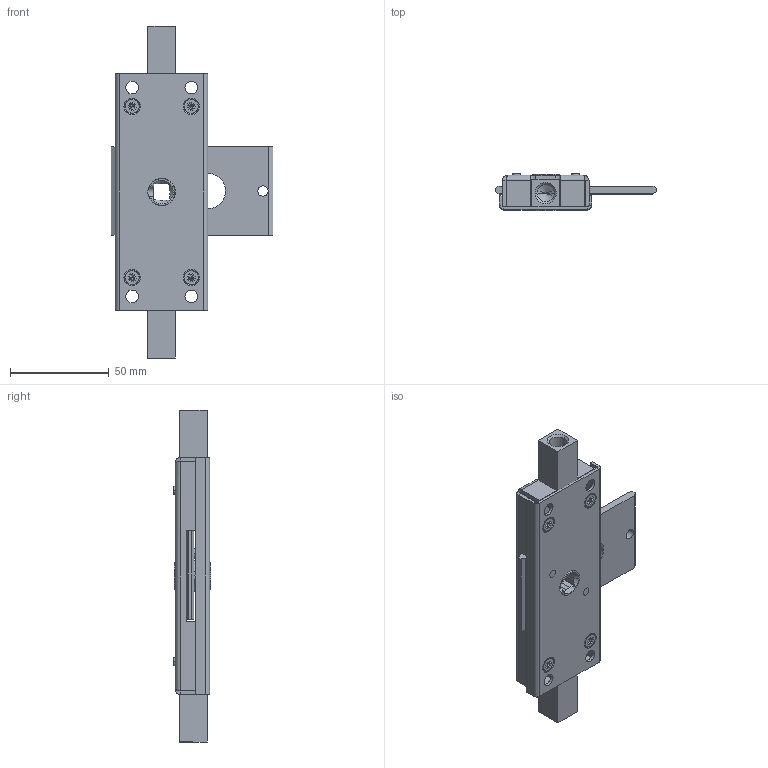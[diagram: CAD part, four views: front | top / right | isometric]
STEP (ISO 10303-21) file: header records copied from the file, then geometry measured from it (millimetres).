
FILE_DESCRIPTION (( 'STEP AP214' ), '1' );
FILE_NAME ('1B.ZWM10.P - zamek wewnetrzny ZW prawy.STEP', '2016-09-07T09:54:41', ( '' ), ( '' ), 'SwSTEP 2.0', 'SolidWorks 2015', '' );
FILE_SCHEMA (( 'AUTOMOTIVE_DESIGN' ));
Length unit declared in the file: millimetre
Products named in the file (16): 1B.ZW.004_A; M4_M4 x 8; 1B.ZW.010_A; 1B.ZW.009_B; 1B.ZW.008_A; 1B.ZW.007_A; 1B.ZW.006_B; 1B.ZW.005_A.P; 1B.ZW.005.04_A; 1B.ZW.005.03_A - M10; 1B.ZW.005.02_A; 1B.ZW.005.01_A; 1B.ZW.003_A; 1B.ZW.001_A; 1B.ZW.002_A; 1B.ZWM10.P - zamek wewnetrzny ZW prawy
Assembly tree (22 placements, depth 3):
  1B.ZWM10.P - zamek wewnetrzny ZW prawy
    1B.ZW.002_A
    1B.ZW.001_A
    1B.ZW.003_A  x4
    1B.ZW.005_A.P  x2
      1B.ZW.005.01_A
      1B.ZW.005.02_A
      1B.ZW.005.03_A - M10
      1B.ZW.005.04_A
    1B.ZW.006_B
    1B.ZW.007_A
    1B.ZW.008_A
    1B.ZW.009_B
    1B.ZW.010_A
    M4_M4 x 8  x4
    1B.ZW.004_A
Bounding box: 82 x 19 x 168.5 mm (x, y, z)
Volume: 65278.8 mm3; surface area: 61214.6 mm2
Topology: 24 solids, 24 shells, 611 faces, 1437 edges, 881 vertices
Faces by surface type: plane 279, cylinder 190, cone 126, bspline 8, torus 8
Entity records: 12688 total; most frequent: CARTESIAN_POINT 2380, DIRECTION 2104, ORIENTED_EDGE 1906, EDGE_CURVE 953, AXIS2_PLACEMENT_3D 770, VERTEX_POINT 594, VECTOR 564, LINE 564
